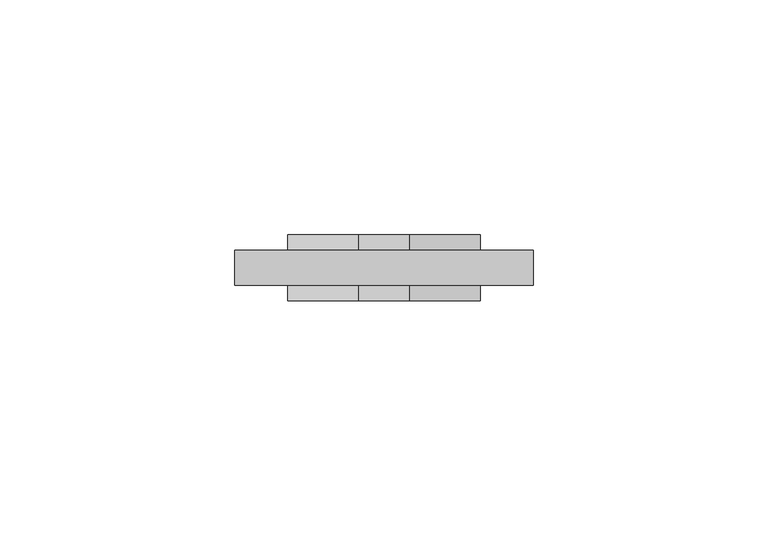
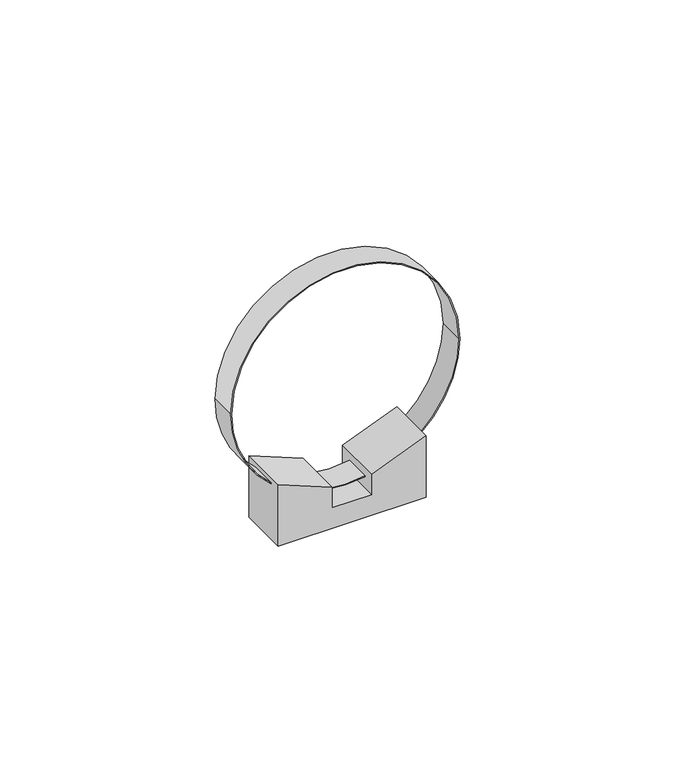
"""IFC4 building model written with IfcOpenShell, lengths in millimetres: cable carrier fitting geometry, КНС_ДержательСХомутиком_DKC : д.25 - 63мм."""

from ifc_helpers import new_model, si_unit, frame, origin, place, context, project, spatial, polyline, circle_curve, source, transform, mapped, element, save
from ifc_brep_helpers import plane_surface, cylinder_surface, revolved_surface, advanced_brep


def cable_carrier_fitting_f9239042(model_context):
    return source(origin(), model_context, "Body", "AdvancedBrep", [
        advanced_brep(
        [(-31.5, -3.75, 40.5), (31.5, -3.75, 40.5), (20.5, -3.75, 16.5834785), (20.5, -3.75, 16.2551552), (31.75, -3.75, 40.5), (-31.75, -3.75, 40.5), (-20.5, -3.75, 16.2551552), (-20.5, -3.75, 16.5834785), (5.5, -3.75, 9.4838752), (-5.5, -3.75, 9.4838752), (-5.5, -3.75, 9.2300064), (5.5, -3.75, 9.2300064), (31.5, 3.75, 40.5), (-31.5, 3.75, 40.5), (-20.5, 3.75, 16.5834785), (-20.5, 3.75, 16.2551552), (-31.75, 3.75, 40.5), (31.75, 3.75, 40.5), (20.5, 3.75, 16.2551552), (20.5, 3.75, 16.5834785), (-5.5, 3.75, 9.4838752), (5.5, 3.75, 9.4838752), (5.5, 3.75, 9.2300064), (-5.5, 3.75, 9.2300064), (20.5, -7.0, 0.0), (20.5, -7.0, 18.0), (5.5, -7.0, 12.0), (5.5, -7.0, 6.0), (-5.5, -7.0, 6.0), (-5.5, -7.0, 12.0), (-20.5, -7.0, 18.0), (-20.5, -7.0, 0.0), (20.5, 7.0, 0.0), (-20.5, 7.0, 0.0), (-20.5, 7.0, 18.0), (-5.5, 7.0, 12.0), (-5.5, 7.0, 6.0), (5.5, 7.0, 6.0), (5.5, 7.0, 12.0), (20.5, 7.0, 18.0)],
        [
            (0, 1, circle_curve(frame((0.0, -3.75, 40.5), z_axis=(0.0, 1.0, 0.0), x_axis=(1.0, 0.0, 0.0)), 31.5)),
            (1, 2, circle_curve(frame((0.0, -3.75, 40.5), z_axis=(0.0, 1.0, 0.0), x_axis=(1.0, 0.0, 0.0)), 31.5)),
            (2, 3),
            (3, 4, circle_curve(frame((0.0, -3.75, 40.5), z_axis=(0.0, -1.0, 0.0), x_axis=(1.0, 0.0, 0.0)), 31.75)),
            (4, 5, circle_curve(frame((0.0, -3.75, 40.5), z_axis=(0.0, -1.0, 0.0), x_axis=(1.0, 0.0, 0.0)), 31.75)),
            (5, 6, circle_curve(frame((0.0, -3.75, 40.5), z_axis=(0.0, -1.0, 0.0), x_axis=(1.0, 0.0, 0.0)), 31.75)),
            (6, 7),
            (7, 0, circle_curve(frame((0.0, -3.75, 40.5), z_axis=(0.0, 1.0, 0.0), x_axis=(1.0, 0.0, 0.0)), 31.5)),
            (8, 9, circle_curve(frame((0.0, -3.75, 40.5), z_axis=(0.0, 1.0, 0.0), x_axis=(1.0, 0.0, 0.0)), 31.5)),
            (9, 10),
            (10, 11, circle_curve(frame((0.0, -3.75, 40.5), z_axis=(0.0, -1.0, 0.0), x_axis=(1.0, 0.0, 0.0)), 31.75)),
            (11, 8),
            (12, 13, circle_curve(frame((0.0, 3.75, 40.5), z_axis=(0.0, -1.0, 0.0), x_axis=(1.0, 0.0, 0.0)), 31.5)),
            (13, 14, circle_curve(frame((0.0, 3.75, 40.5), z_axis=(0.0, -1.0, 0.0), x_axis=(1.0, 0.0, 0.0)), 31.5)),
            (14, 15),
            (15, 16, circle_curve(frame((0.0, 3.75, 40.5), z_axis=(0.0, 1.0, 0.0), x_axis=(1.0, 0.0, 0.0)), 31.75)),
            (16, 17, circle_curve(frame((0.0, 3.75, 40.5), z_axis=(0.0, 1.0, 0.0), x_axis=(1.0, 0.0, 0.0)), 31.75)),
            (17, 18, circle_curve(frame((0.0, 3.75, 40.5), z_axis=(0.0, 1.0, 0.0), x_axis=(1.0, 0.0, 0.0)), 31.75)),
            (18, 19),
            (19, 12, circle_curve(frame((0.0, 3.75, 40.5), z_axis=(0.0, -1.0, 0.0), x_axis=(1.0, 0.0, 0.0)), 31.5)),
            (20, 21, circle_curve(frame((0.0, 3.75, 40.5), z_axis=(0.0, -1.0, 0.0), x_axis=(1.0, 0.0, 0.0)), 31.5)),
            (21, 22),
            (22, 23, circle_curve(frame((0.0, 3.75, 40.5), z_axis=(0.0, 1.0, 0.0), x_axis=(1.0, 0.0, 0.0)), 31.75)),
            (23, 20),
            (0, 13),
            (12, 1),
            (8, 21),
            (20, 9),
            (7, 14),
            (19, 2),
            (10, 23),
            (22, 11),
            (5, 16),
            (15, 6),
            (17, 4),
            (3, 18),
            (24, 25),
            (25, 26),
            (26, 27),
            (27, 28),
            (28, 29),
            (29, 30),
            (30, 31),
            (31, 24),
            (32, 33),
            (33, 34),
            (34, 35),
            (35, 36),
            (36, 37),
            (37, 38),
            (38, 39),
            (39, 32),
            (24, 32),
            (39, 25),
            (38, 26),
            (37, 27),
            (36, 28),
            (35, 29),
            (34, 30),
            (33, 31),
        ],
        [
            plane_surface(frame((31.5, -3.75, 40.5), z_axis=(0.0, -1.0, 0.0), x_axis=(0.0, 0.0, -1.0))),
            plane_surface(frame((31.5, 3.75, 40.5), z_axis=(0.0, 1.0, 0.0), x_axis=(0.0, 0.0, 1.0))),
            revolved_surface(polyline([(31.5, 3.75, 40.5), (31.5, -3.75, 40.5)]), (0.0, 3.75, 40.5), (0.0, 1.0, 0.0)),
            cylinder_surface(frame((0.0, 0.0, 40.5), z_axis=(0.0, -1.0, 0.0), x_axis=(1.0, 0.0, 0.0)), 31.75),
            plane_surface(frame((20.5, -7.0, 18.0), z_axis=(0.0, -1.0, 0.0), x_axis=(0.0, 0.0, 1.0))),
            plane_surface(frame((20.5, 7.0, 18.0), z_axis=(0.0, 1.0, 0.0), x_axis=(0.0, 0.0, -1.0))),
            plane_surface(frame((20.5, -7.0, 0.0), z_axis=(1.0, 0.0, 0.0), x_axis=(0.0, 1.0, 0.0))),
            plane_surface(frame((20.5, -7.0, 18.0), z_axis=(-0.3713906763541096, 0.0, 0.928476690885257), x_axis=(0.0, 1.0, 0.0))),
            plane_surface(frame((5.5, -7.0, 12.0), z_axis=(-1.0, 0.0, 0.0), x_axis=(0.0, 1.0, 0.0))),
            plane_surface(frame((5.5, -7.0, 6.0), z_axis=(0.0, 0.0, 1.0), x_axis=(0.0, 1.0, 0.0))),
            plane_surface(frame((-5.5, -7.0, 6.0), z_axis=(1.0, 0.0, 0.0), x_axis=(0.0, 1.0, 0.0))),
            plane_surface(frame((-5.5, -7.0, 12.0), z_axis=(0.3713906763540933, 0.0, 0.9284766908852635), x_axis=(0.0, 1.0, 0.0))),
            plane_surface(frame((-20.5, -7.0, 18.0), z_axis=(-1.0, 0.0, 0.0), x_axis=(0.0, 1.0, 0.0))),
            plane_surface(frame((-20.5, -7.0, 0.0), z_axis=(0.0, 0.0, -1.0), x_axis=(0.0, 1.0, 0.0))),
        ],
        [
            (0, [[1, 2, 3, 4, 5, 6, 7, 8]]),
            (0, [[9, 10, 11, 12]]),
            (1, [[13, 14, 15, 16, 17, 18, 19, 20]]),
            (1, [[21, 22, 23, 24]]),
            (2, [[-1, 25, -13, 26]]),
            (2, [[-9, 27, -21, 28]]),
            (2, [[-25, -8, 29, -14]]),
            (2, [[-26, -20, 30, -2]]),
            (3, [[-11, 31, -23, 32]]),
            (3, [[33, -16, 34, -6]]),
            (3, [[35, -4, 36, -18]]),
            (3, [[-5, -35, -17, -33]]),
            (4, [[37, 38, 39, 40, 41, 42, 43, 44]]),
            (5, [[45, 46, 47, 48, 49, 50, 51, 52]]),
            (6, [[-37, 53, -52, 54], [-3, -30, -19, -36]]),
            (7, [[-38, -54, -51, 55]]),
            (8, [[-39, -55, -50, 56], [-12, -32, -22, -27]]),
            (9, [[-40, -56, -49, 57]]),
            (10, [[-41, -57, -48, 58], [-10, -28, -24, -31]]),
            (11, [[-42, -58, -47, 59]]),
            (12, [[-43, -59, -46, 60], [-7, -34, -15, -29]]),
            (13, [[-44, -60, -45, -53]]),
        ],
    ),
    ])


if __name__ == "__main__":
    model = new_model("IFC4")
    model_context = context("Model", 3, world=origin())
    ifc_project = project(units=[si_unit("LENGTHUNIT", "METRE", prefix="MILLI")], contexts=[model_context])
    site = spatial("IfcSite", under=ifc_project)
    building = spatial("IfcBuilding", under=site)
    placement = place(None, origin())
    cable_carrier_fitting_shape = cable_carrier_fitting_f9239042(model_context)
    element("IfcCableCarrierFitting", 1, ObjectType="КНС_ДержательСХомутиком_DKC : д.25 - 63мм", at=placement, inside=building, context=model_context, shape_type="MappedRepresentation", body=[
        mapped(cable_carrier_fitting_shape, transform((0.0, 0.0, 0.0), x_axis=(1.0, 0.0, 0.0), y_axis=(0.0, 1.0, 0.0), z_axis=(0.0, 0.0, 1.0))),
    ])
    save(model, "model.ifc")
